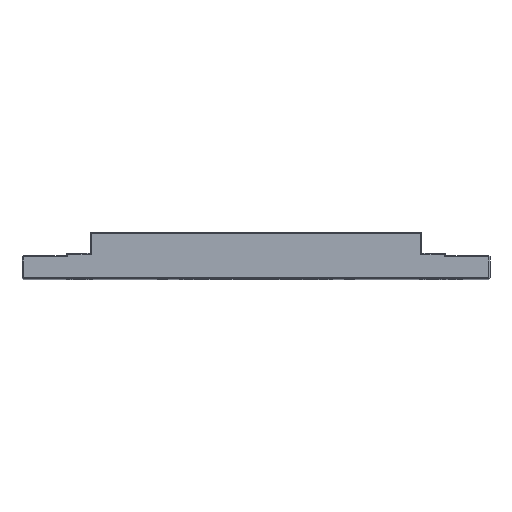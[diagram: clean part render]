
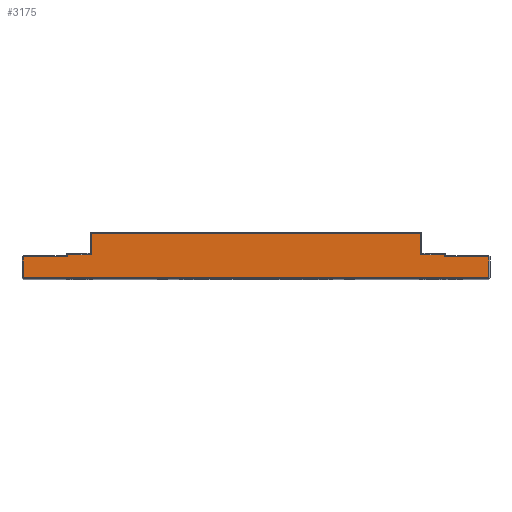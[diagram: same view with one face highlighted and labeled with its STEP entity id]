
A CAD part, top view. The second image highlights one B-rep face of the part: STEP entity #3175.
In plain terms, the highlighted planar face has unit normal (0, 0, 1).
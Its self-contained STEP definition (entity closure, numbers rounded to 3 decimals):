
#7 = DIRECTION ( 'NONE',  ( 0., 0., -1. ) ) ;
#74 = LINE ( 'NONE', #1759, #3098 ) ;
#110 = EDGE_CURVE ( 'NONE', #3002, #1354, #3260, .T. ) ;
#176 = AXIS2_PLACEMENT_3D ( 'NONE', #1035, #7, #1075 ) ;
#236 = VERTEX_POINT ( 'NONE', #918 ) ;
#245 = CARTESIAN_POINT ( 'NONE',  ( 44.3, 5.7, 55. ) ) ;
#252 = VERTEX_POINT ( 'NONE', #2753 ) ;
#331 = CARTESIAN_POINT ( 'NONE',  ( 38.7, 5.7, 55. ) ) ;
#362 = ORIENTED_EDGE ( 'NONE', *, *, #2903, .T. ) ;
#366 = ORIENTED_EDGE ( 'NONE', *, *, #3084, .T. ) ;
#373 = DIRECTION ( 'NONE',  ( 0., 1., 0. ) ) ;
#389 = VERTEX_POINT ( 'NONE', #743 ) ;
#410 = DIRECTION ( 'NONE',  ( 0., 1., 0. ) ) ;
#544 = VECTOR ( 'NONE', #893, 1000. ) ;
#549 = EDGE_LOOP ( 'NONE', ( #366, #2626, #846, #1147, #2173, #3328, #362, #776, #3238, #2892, #3348, #2909 ) ) ;
#743 = CARTESIAN_POINT ( 'NONE',  ( -54.7, 5.2, 55. ) ) ;
#756 = FACE_OUTER_BOUND ( 'NONE', #549, .T. ) ;
#776 = ORIENTED_EDGE ( 'NONE', *, *, #2195, .T. ) ;
#824 = CARTESIAN_POINT ( 'NONE',  ( -55., 5.2, 55. ) ) ;
#839 = LINE ( 'NONE', #2986, #2353 ) ;
#846 = ORIENTED_EDGE ( 'NONE', *, *, #922, .T. ) ;
#893 = DIRECTION ( 'NONE',  ( 0., -1., 0. ) ) ;
#918 = CARTESIAN_POINT ( 'NONE',  ( -44.3, 5.2, 55. ) ) ;
#922 = EDGE_CURVE ( 'NONE', #944, #1904, #74, .T. ) ;
#926 = VECTOR ( 'NONE', #2161, 1000. ) ;
#944 = VERTEX_POINT ( 'NONE', #2241 ) ;
#949 = VERTEX_POINT ( 'NONE', #331 ) ;
#979 = EDGE_CURVE ( 'NONE', #1678, #949, #1415, .T. ) ;
#1035 = CARTESIAN_POINT ( 'NONE',  ( -55., 11., 55. ) ) ;
#1044 = VECTOR ( 'NONE', #410, 1000. ) ;
#1049 = CARTESIAN_POINT ( 'NONE',  ( 54.7, 5.2, 55. ) ) ;
#1058 = DIRECTION ( 'NONE',  ( 0., -1., 0. ) ) ;
#1075 = DIRECTION ( 'NONE',  ( -1., 0., 0. ) ) ;
#1078 = CARTESIAN_POINT ( 'NONE',  ( 54.7, 11., 55. ) ) ;
#1139 = LINE ( 'NONE', #2255, #2599 ) ;
#1147 = ORIENTED_EDGE ( 'NONE', *, *, #2230, .T. ) ;
#1190 = LINE ( 'NONE', #2829, #3395 ) ;
#1217 = LINE ( 'NONE', #1977, #544 ) ;
#1272 = LINE ( 'NONE', #2374, #1318 ) ;
#1318 = VECTOR ( 'NONE', #3463, 1000. ) ;
#1354 = VERTEX_POINT ( 'NONE', #1424 ) ;
#1382 = CARTESIAN_POINT ( 'NONE',  ( -55., 5.2, 55. ) ) ;
#1415 = LINE ( 'NONE', #1704, #1497 ) ;
#1424 = CARTESIAN_POINT ( 'NONE',  ( 44.3, 5.2, 55. ) ) ;
#1442 = EDGE_CURVE ( 'NONE', #389, #2677, #1139, .T. ) ;
#1471 = DIRECTION ( 'NONE',  ( -1., 0., 0. ) ) ;
#1497 = VECTOR ( 'NONE', #3405, 1000. ) ;
#1578 = EDGE_CURVE ( 'NONE', #949, #2260, #3142, .T. ) ;
#1631 = CARTESIAN_POINT ( 'NONE',  ( -38.7, 10.7, 55. ) ) ;
#1678 = VERTEX_POINT ( 'NONE', #245 ) ;
#1704 = CARTESIAN_POINT ( 'NONE',  ( 39., 5.7, 55. ) ) ;
#1759 = CARTESIAN_POINT ( 'NONE',  ( -44.6, 5.7, 55. ) ) ;
#1853 = EDGE_CURVE ( 'NONE', #1354, #1678, #1190, .T. ) ;
#1857 = VECTOR ( 'NONE', #2732, 1000. ) ;
#1904 = VERTEX_POINT ( 'NONE', #2015 ) ;
#1977 = CARTESIAN_POINT ( 'NONE',  ( -44.3, 11., 55. ) ) ;
#2015 = CARTESIAN_POINT ( 'NONE',  ( -44.3, 5.7, 55. ) ) ;
#2042 = CARTESIAN_POINT ( 'NONE',  ( 38.7, 11., 55. ) ) ;
#2110 = EDGE_CURVE ( 'NONE', #236, #389, #3268, .T. ) ;
#2136 = PLANE ( 'NONE',  #176 ) ;
#2161 = DIRECTION ( 'NONE',  ( -1., 0., 0. ) ) ;
#2173 = ORIENTED_EDGE ( 'NONE', *, *, #2110, .T. ) ;
#2191 = DIRECTION ( 'NONE',  ( -1., 0., 0. ) ) ;
#2195 = EDGE_CURVE ( 'NONE', #252, #3002, #2479, .T. ) ;
#2230 = EDGE_CURVE ( 'NONE', #1904, #236, #1217, .T. ) ;
#2241 = CARTESIAN_POINT ( 'NONE',  ( -38.7, 5.7, 55. ) ) ;
#2255 = CARTESIAN_POINT ( 'NONE',  ( -54.7, 11., 55. ) ) ;
#2260 = VERTEX_POINT ( 'NONE', #3118 ) ;
#2287 = CARTESIAN_POINT ( 'NONE',  ( -54.7, 0.3, 55. ) ) ;
#2353 = VECTOR ( 'NONE', #3240, 1000. ) ;
#2374 = CARTESIAN_POINT ( 'NONE',  ( -39., 10.7, 55. ) ) ;
#2479 = LINE ( 'NONE', #1078, #1857 ) ;
#2543 = VECTOR ( 'NONE', #2191, 1000. ) ;
#2549 = VERTEX_POINT ( 'NONE', #1631 ) ;
#2599 = VECTOR ( 'NONE', #3329, 1000. ) ;
#2626 = ORIENTED_EDGE ( 'NONE', *, *, #3123, .T. ) ;
#2677 = VERTEX_POINT ( 'NONE', #2287 ) ;
#2712 = CARTESIAN_POINT ( 'NONE',  ( -38.7, 11., 55. ) ) ;
#2732 = DIRECTION ( 'NONE',  ( 0., 1., 0. ) ) ;
#2753 = CARTESIAN_POINT ( 'NONE',  ( 54.7, 0.3, 55. ) ) ;
#2829 = CARTESIAN_POINT ( 'NONE',  ( 44.3, 11., 55. ) ) ;
#2892 = ORIENTED_EDGE ( 'NONE', *, *, #1853, .T. ) ;
#2903 = EDGE_CURVE ( 'NONE', #2677, #252, #839, .T. ) ;
#2909 = ORIENTED_EDGE ( 'NONE', *, *, #1578, .T. ) ;
#2986 = CARTESIAN_POINT ( 'NONE',  ( -55., 0.3, 55. ) ) ;
#3002 = VERTEX_POINT ( 'NONE', #1049 ) ;
#3084 = EDGE_CURVE ( 'NONE', #2260, #2549, #1272, .T. ) ;
#3098 = VECTOR ( 'NONE', #1471, 1000. ) ;
#3118 = CARTESIAN_POINT ( 'NONE',  ( 38.7, 10.7, 55. ) ) ;
#3123 = EDGE_CURVE ( 'NONE', #2549, #944, #3209, .T. ) ;
#3142 = LINE ( 'NONE', #2042, #1044 ) ;
#3175 = ADVANCED_FACE ( 'NONE', ( #756 ), #2136, .F. ) ;
#3209 = LINE ( 'NONE', #2712, #3492 ) ;
#3238 = ORIENTED_EDGE ( 'NONE', *, *, #110, .T. ) ;
#3240 = DIRECTION ( 'NONE',  ( 1., 0., 0. ) ) ;
#3260 = LINE ( 'NONE', #824, #926 ) ;
#3268 = LINE ( 'NONE', #1382, #2543 ) ;
#3328 = ORIENTED_EDGE ( 'NONE', *, *, #1442, .T. ) ;
#3329 = DIRECTION ( 'NONE',  ( 0., -1., 0. ) ) ;
#3348 = ORIENTED_EDGE ( 'NONE', *, *, #979, .T. ) ;
#3395 = VECTOR ( 'NONE', #373, 1000. ) ;
#3405 = DIRECTION ( 'NONE',  ( -1., 0., 0. ) ) ;
#3463 = DIRECTION ( 'NONE',  ( -1., 0., 0. ) ) ;
#3492 = VECTOR ( 'NONE', #1058, 1000. ) ;
